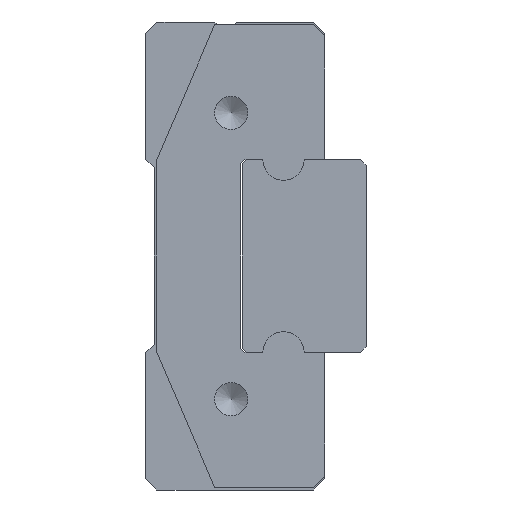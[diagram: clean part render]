
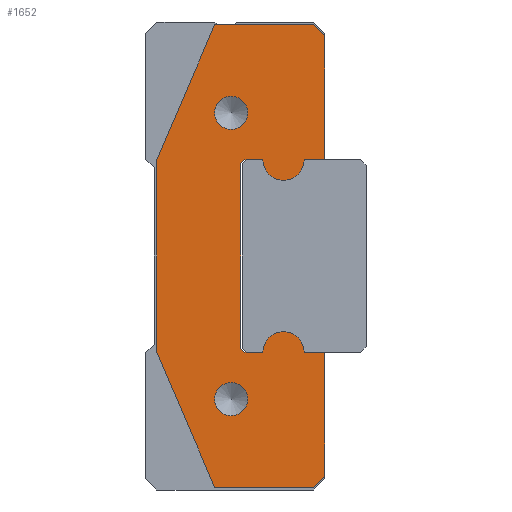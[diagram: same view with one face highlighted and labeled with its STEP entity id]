
A CAD part, left-side view. The second image highlights one B-rep face of the part: STEP entity #1652.
In plain terms, the highlighted planar face has unit normal (-1, 0, 0) as drawn and (0, 0, 1) by its records, which use the part's own axes.
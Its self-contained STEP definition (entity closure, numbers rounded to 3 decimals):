
#118=PLANE('',#1837);
#219=LINE('',#2645,#367);
#223=LINE('',#2654,#371);
#226=LINE('',#2660,#374);
#229=LINE('',#2666,#377);
#233=LINE('',#2678,#381);
#236=LINE('',#2684,#384);
#239=LINE('',#2690,#387);
#242=LINE('',#2696,#390);
#245=LINE('',#2702,#393);
#249=LINE('',#2714,#397);
#252=LINE('',#2720,#400);
#255=LINE('',#2726,#403);
#258=LINE('',#2732,#406);
#261=LINE('',#2738,#409);
#264=LINE('',#2744,#412);
#267=LINE('',#2750,#415);
#367=VECTOR('',#2184,1000.);
#371=VECTOR('',#2190,1000.);
#374=VECTOR('',#2195,1000.);
#377=VECTOR('',#2200,1000.);
#381=VECTOR('',#2212,1000.);
#384=VECTOR('',#2217,1000.);
#387=VECTOR('',#2222,1000.);
#390=VECTOR('',#2227,1000.);
#393=VECTOR('',#2232,1000.);
#397=VECTOR('',#2244,1000.);
#400=VECTOR('',#2249,1000.);
#403=VECTOR('',#2254,1000.);
#406=VECTOR('',#2259,1000.);
#409=VECTOR('',#2264,1000.);
#412=VECTOR('',#2269,1000.);
#415=VECTOR('',#2274,1000.);
#789=ORIENTED_EDGE('',*,*,#1021,.F.);
#790=ORIENTED_EDGE('',*,*,#1022,.F.);
#791=ORIENTED_EDGE('',*,*,#965,.T.);
#792=ORIENTED_EDGE('',*,*,#969,.T.);
#793=ORIENTED_EDGE('',*,*,#972,.T.);
#794=ORIENTED_EDGE('',*,*,#975,.T.);
#795=ORIENTED_EDGE('',*,*,#978,.T.);
#796=ORIENTED_EDGE('',*,*,#981,.T.);
#797=ORIENTED_EDGE('',*,*,#984,.T.);
#798=ORIENTED_EDGE('',*,*,#987,.T.);
#799=ORIENTED_EDGE('',*,*,#990,.T.);
#800=ORIENTED_EDGE('',*,*,#993,.T.);
#801=ORIENTED_EDGE('',*,*,#996,.T.);
#802=ORIENTED_EDGE('',*,*,#999,.T.);
#803=ORIENTED_EDGE('',*,*,#1002,.T.);
#804=ORIENTED_EDGE('',*,*,#1005,.T.);
#805=ORIENTED_EDGE('',*,*,#1008,.T.);
#806=ORIENTED_EDGE('',*,*,#1011,.T.);
#807=ORIENTED_EDGE('',*,*,#1014,.T.);
#808=ORIENTED_EDGE('',*,*,#1017,.T.);
#965=EDGE_CURVE('',#1141,#1142,#219,.T.);
#969=EDGE_CURVE('',#1142,#1145,#223,.T.);
#972=EDGE_CURVE('',#1145,#1147,#226,.T.);
#975=EDGE_CURVE('',#1147,#1149,#229,.T.);
#978=EDGE_CURVE('',#1149,#1151,#1229,.T.);
#981=EDGE_CURVE('',#1151,#1153,#233,.T.);
#984=EDGE_CURVE('',#1153,#1155,#236,.T.);
#987=EDGE_CURVE('',#1155,#1157,#239,.T.);
#990=EDGE_CURVE('',#1157,#1159,#242,.T.);
#993=EDGE_CURVE('',#1159,#1161,#245,.T.);
#996=EDGE_CURVE('',#1161,#1163,#1231,.T.);
#999=EDGE_CURVE('',#1163,#1165,#249,.T.);
#1002=EDGE_CURVE('',#1165,#1167,#252,.T.);
#1005=EDGE_CURVE('',#1167,#1169,#255,.T.);
#1008=EDGE_CURVE('',#1169,#1171,#258,.T.);
#1011=EDGE_CURVE('',#1171,#1173,#261,.T.);
#1014=EDGE_CURVE('',#1173,#1175,#264,.T.);
#1017=EDGE_CURVE('',#1175,#1141,#267,.T.);
#1021=EDGE_CURVE('',#1179,#1179,#1235,.T.);
#1022=EDGE_CURVE('',#1180,#1180,#1236,.T.);
#1141=VERTEX_POINT('',#2646);
#1142=VERTEX_POINT('',#2647);
#1145=VERTEX_POINT('',#2655);
#1147=VERTEX_POINT('',#2661);
#1149=VERTEX_POINT('',#2667);
#1151=VERTEX_POINT('',#2673);
#1153=VERTEX_POINT('',#2679);
#1155=VERTEX_POINT('',#2685);
#1157=VERTEX_POINT('',#2691);
#1159=VERTEX_POINT('',#2697);
#1161=VERTEX_POINT('',#2703);
#1163=VERTEX_POINT('',#2709);
#1165=VERTEX_POINT('',#2715);
#1167=VERTEX_POINT('',#2721);
#1169=VERTEX_POINT('',#2727);
#1171=VERTEX_POINT('',#2733);
#1173=VERTEX_POINT('',#2739);
#1175=VERTEX_POINT('',#2745);
#1179=VERTEX_POINT('',#2759);
#1180=VERTEX_POINT('',#2761);
#1229=CIRCLE('',#1817,0.75);
#1231=CIRCLE('',#1825,0.75);
#1235=CIRCLE('',#1838,0.6);
#1236=CIRCLE('',#1839,0.6);
#1368=EDGE_LOOP('',(#789));
#1369=EDGE_LOOP('',(#790));
#1370=EDGE_LOOP('',(#791,#792,#793,#794,#795,#796,#797,#798,#799,#800,#801,
#802,#803,#804,#805,#806,#807,#808));
#1520=FACE_BOUND('',#1368,.T.);
#1521=FACE_BOUND('',#1369,.T.);
#1522=FACE_BOUND('',#1370,.T.);
#1652=ADVANCED_FACE('',(#1520,#1521,#1522),#118,.T.);
#1817=AXIS2_PLACEMENT_3D('',#2672,#2205,#2206);
#1825=AXIS2_PLACEMENT_3D('',#2708,#2237,#2238);
#1837=AXIS2_PLACEMENT_3D('',#2757,#2282,#2283);
#1838=AXIS2_PLACEMENT_3D('',#2758,#2284,#2285);
#1839=AXIS2_PLACEMENT_3D('',#2760,#2286,#2287);
#2184=DIRECTION('',(0.,-1.,0.));
#2190=DIRECTION('',(0.707,-0.707,0.));
#2195=DIRECTION('',(1.,0.,0.));
#2200=DIRECTION('',(0.,1.,0.));
#2205=DIRECTION('',(0.,0.,1.));
#2206=DIRECTION('',(1.,0.,0.));
#2212=DIRECTION('',(0.,1.,0.));
#2217=DIRECTION('',(0.707,0.707,0.));
#2222=DIRECTION('',(1.,0.,0.));
#2227=DIRECTION('',(0.707,-0.707,0.));
#2232=DIRECTION('',(0.,-1.,0.));
#2237=DIRECTION('',(0.,0.,1.));
#2238=DIRECTION('',(1.,0.,0.));
#2244=DIRECTION('',(0.,-1.,0.));
#2249=DIRECTION('',(1.,0.,0.));
#2254=DIRECTION('',(0.707,0.707,0.));
#2259=DIRECTION('',(0.,1.,0.));
#2264=DIRECTION('',(-0.919,0.394,0.));
#2269=DIRECTION('',(-1.,0.,0.));
#2274=DIRECTION('',(-0.919,-0.394,0.));
#2282=DIRECTION('',(0.,0.,1.));
#2283=DIRECTION('',(1.,0.,0.));
#2284=DIRECTION('',(0.,0.,1.));
#2285=DIRECTION('',(1.,0.,0.));
#2286=DIRECTION('',(0.,0.,1.));
#2287=DIRECTION('',(1.,0.,0.));
#2645=CARTESIAN_POINT('',(-8.4,4.,0.));
#2646=CARTESIAN_POINT('',(-8.4,4.,0.));
#2647=CARTESIAN_POINT('',(-8.4,0.4,0.));
#2654=CARTESIAN_POINT('',(-8.4,0.4,0.));
#2655=CARTESIAN_POINT('',(-8.,0.,0.));
#2660=CARTESIAN_POINT('',(-8.,0.,0.));
#2661=CARTESIAN_POINT('',(-3.5,0.,0.));
#2666=CARTESIAN_POINT('',(-3.5,0.,0.));
#2667=CARTESIAN_POINT('',(-3.5,0.75,0.));
#2672=CARTESIAN_POINT('',(-3.5,1.5,0.));
#2673=CARTESIAN_POINT('',(-3.5,2.25,0.));
#2678=CARTESIAN_POINT('',(-3.5,2.25,0.));
#2679=CARTESIAN_POINT('',(-3.5,2.9,0.));
#2684=CARTESIAN_POINT('',(-3.5,2.9,0.));
#2685=CARTESIAN_POINT('',(-3.35,3.05,0.));
#2690=CARTESIAN_POINT('',(-3.35,3.05,0.));
#2691=CARTESIAN_POINT('',(3.35,3.05,0.));
#2696=CARTESIAN_POINT('',(3.35,3.05,0.));
#2697=CARTESIAN_POINT('',(3.5,2.9,0.));
#2702=CARTESIAN_POINT('',(3.5,2.9,0.));
#2703=CARTESIAN_POINT('',(3.5,2.25,0.));
#2708=CARTESIAN_POINT('',(3.5,1.5,0.));
#2709=CARTESIAN_POINT('',(3.5,0.75,0.));
#2714=CARTESIAN_POINT('',(3.5,0.75,0.));
#2715=CARTESIAN_POINT('',(3.5,0.,0.));
#2720=CARTESIAN_POINT('',(3.5,0.,0.));
#2721=CARTESIAN_POINT('',(8.,0.,0.));
#2726=CARTESIAN_POINT('',(8.,0.,0.));
#2727=CARTESIAN_POINT('',(8.4,0.4,0.));
#2732=CARTESIAN_POINT('',(8.4,0.4,0.));
#2733=CARTESIAN_POINT('',(8.4,4.,0.));
#2738=CARTESIAN_POINT('',(8.4,4.,0.));
#2739=CARTESIAN_POINT('',(3.5,6.1,0.));
#2744=CARTESIAN_POINT('',(3.5,6.1,0.));
#2745=CARTESIAN_POINT('',(-3.5,6.1,0.));
#2750=CARTESIAN_POINT('',(-3.5,6.1,0.));
#2757=CARTESIAN_POINT('',(-3.5,1.5,0.));
#2758=CARTESIAN_POINT('',(-5.2,3.4,0.));
#2759=CARTESIAN_POINT('',(-4.6,3.4,0.));
#2760=CARTESIAN_POINT('',(5.2,3.4,0.));
#2761=CARTESIAN_POINT('',(5.8,3.4,0.));
